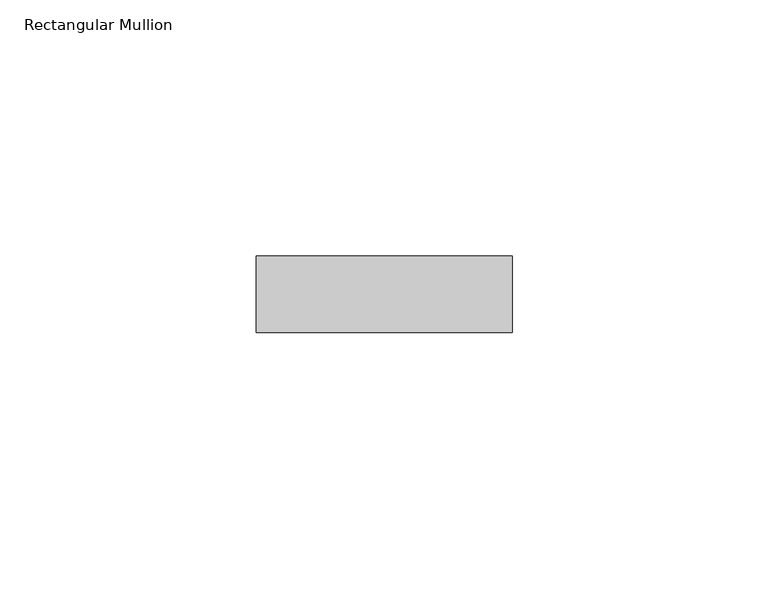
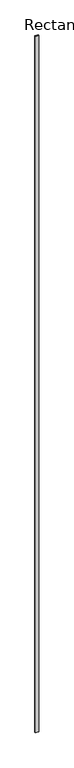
"""IFC4 building model written with IfcOpenShell, lengths in millimetres: member geometry, Rectangular Mullion : Ripa."""

import ifcopenshell
import ifcopenshell.guid

model = None  # the IFC model being written
_history = None  # IfcOwnerHistory: only IFC2X3 demands one
_inside = {}  # id of a spatial element -> (the spatial element, [elements in it])
_under = {}  # id of a project, library or spatial element -> (it, [spatial elements below it])
_declared = {}  # id of a project -> (the project, [libraries it declares])
_typed = {}  # id of a type object -> (the type object, [elements of that type])
_made_of = {}  # id of a material, layer set ... -> (it, [elements and type objects made of it])


def new_model(schema):
    """Start an empty IFC model of exactly this schema.

    Asked for "IFC4X3", IfcOpenShell would pick the latest addendum, in which some entities
    have other attributes; the version numbers below select the first issue.
    IFC2X3 requires an IfcOwnerHistory on every rooted entity: one is made here for all.
    """
    global model, _history
    if schema == "IFC4X3":
        model = ifcopenshell.file(schema_version=(4, 3, 0, 0))
    else:
        model = ifcopenshell.file(schema=schema)
    _inside.clear()
    _under.clear()
    _declared.clear()
    _typed.clear()
    _made_of.clear()
    _history = None
    if model.schema == "IFC2X3":
        org = make("IfcOrganization", Name="unknown")
        user = make(
            "IfcPersonAndOrganization",
            ThePerson=make("IfcPerson", FamilyName="unknown"),
            TheOrganization=org,
        )
        app = make(
            "IfcApplication",
            ApplicationDeveloper=org,
            Version="unknown",
            ApplicationFullName="unknown",
            ApplicationIdentifier="unknown",
        )
        _history = make(
            "IfcOwnerHistory",
            OwningUser=user,
            OwningApplication=app,
            ChangeAction="ADDED",
            CreationDate=0,
        )
    return model


def make(cls, **values):
    """One entity of the class cls with the attributes given. An attribute that is None is left unset."""
    return model.create_entity(
        cls, **{name: value for name, value in values.items() if value is not None}
    )


def rooted(cls, **values):
    """An entity with a GlobalId (a new one), such as an element, a storey or a relation."""
    return make(cls, GlobalId=ifcopenshell.guid.new(), OwnerHistory=_history, **values)


def si_unit(unit_type, name, prefix=None):
    """IfcSIUnit, for example si_unit("LENGTHUNIT", "METRE", prefix="MILLI")."""
    return make("IfcSIUnit", UnitType=unit_type, Prefix=prefix, Name=name)


def assignment(units):
    """IfcUnitAssignment: the units of a project."""
    return None if units is None else make("IfcUnitAssignment", Units=units)


def point(xyz):
    """IfcCartesianPoint."""
    return None if xyz is None else make("IfcCartesianPoint", Coordinates=xyz)


def direction(xyz):
    """IfcDirection."""
    return None if xyz is None else make("IfcDirection", DirectionRatios=xyz)


def frame(location, z_axis=None, x_axis=None):
    """IfcAxis2Placement3D, a coordinate frame: its origin and axes. An axis left out is left unset."""
    return make(
        "IfcAxis2Placement3D",
        Location=point(location),
        Axis=direction(z_axis),
        RefDirection=direction(x_axis),
    )


def origin():
    """The frame at (0, 0, 0) with its axes left unset."""
    return frame((0.0, 0.0, 0.0))


def place(relative_to, where):
    """IfcLocalPlacement: puts the frame where relative to a parent placement (None: the world)."""
    return make(
        "IfcLocalPlacement", PlacementRelTo=relative_to, RelativePlacement=where
    )


def context(
    kind, dimensions, precision=None, world=None, true_north=None, identifier=None
):
    """IfcGeometricRepresentationContext, for example the 3D "Model" context."""
    return make(
        "IfcGeometricRepresentationContext",
        ContextIdentifier=identifier,
        ContextType=kind,
        CoordinateSpaceDimension=dimensions,
        Precision=precision,
        WorldCoordinateSystem=world,
        TrueNorth=true_north,
    )


def project(units=None, contexts=None):
    """IfcProject with its units and contexts."""
    return rooted(
        "IfcProject",
        Name="project",
        RepresentationContexts=contexts,
        UnitsInContext=assignment(units),
    )


def spatial(cls, under=None, at=None, **own):
    """A site, building, storey or space (cls), placed at a placement, below another one or the project."""
    s = rooted(cls, ObjectPlacement=at, **own)
    if under is not None:
        _under.setdefault(under.id(), (under, []))[1].append(s)
    return s


def polyline(points):
    """IfcPolyline through the points."""
    return make("IfcPolyline", Points=[point(p) for p in points])


def outline(outer, holes=None, kind="AREA"):
    """IfcArbitraryClosedProfileDef: a profile drawn as a closed curve; with holes, ...WithVoids."""
    if holes is None:
        return make("IfcArbitraryClosedProfileDef", ProfileType=kind, OuterCurve=outer)
    return make(
        "IfcArbitraryProfileDefWithVoids",
        ProfileType=kind,
        OuterCurve=outer,
        InnerCurves=holes,
    )


def extrude(swept, where, along, depth):
    """IfcExtrudedAreaSolid: the profile swept, set in the frame where, extruded along a direction by depth."""
    return make(
        "IfcExtrudedAreaSolid",
        SweptArea=swept,
        Position=where,
        ExtrudedDirection=direction(along),
        Depth=depth,
    )


def shape(context_of_items, identifier, shape_type, items):
    """IfcShapeRepresentation: the items that make up one representation, for example the "Body"."""
    return make(
        "IfcShapeRepresentation",
        ContextOfItems=context_of_items,
        RepresentationIdentifier=identifier,
        RepresentationType=shape_type,
        Items=items,
    )


def source(mapping_origin, context_of_items, identifier, shape_type, items):
    """IfcRepresentationMap: a shape defined once, which mapped items show again and again."""
    return make(
        "IfcRepresentationMap",
        MappingOrigin=mapping_origin,
        MappedRepresentation=shape(context_of_items, identifier, shape_type, items),
    )


def transform(
    local_origin,
    x_axis=None,
    y_axis=None,
    z_axis=None,
    scale=None,
    scale2=None,
    scale3=None,
    uniform=True,
):
    """IfcCartesianTransformationOperator3D, or its non-uniform kind. x_axis, y_axis, z_axis: its Axis1, 2, 3."""
    if uniform:
        return make(
            "IfcCartesianTransformationOperator3D",
            Axis1=direction(x_axis),
            Axis2=direction(y_axis),
            LocalOrigin=point(local_origin),
            Scale=scale,
            Axis3=direction(z_axis),
        )
    return make(
        "IfcCartesianTransformationOperator3DnonUniform",
        Axis1=direction(x_axis),
        Axis2=direction(y_axis),
        LocalOrigin=point(local_origin),
        Scale=scale,
        Axis3=direction(z_axis),
        Scale2=scale2,
        Scale3=scale3,
    )


def mapped(mapping_source, mapping_target):
    """IfcMappedItem: shows the shape of a source again, moved by a transform."""
    return make(
        "IfcMappedItem", MappingSource=mapping_source, MappingTarget=mapping_target
    )


def made_of(thing, what):
    """Note that an element or type object is made of a material, layer set ...; save() writes the relation."""
    if what is not None:
        _made_of.setdefault(what.id(), (what, []))[1].append(thing)
    return thing


def element(
    cls,
    number,
    at=None,
    inside=None,
    cuts=None,
    type_object=None,
    material=None,
    context=None,
    identifier="Body",
    shape_type=None,
    held_by="IfcProductDefinitionShape",
    body=None,
    shapes=None,
    **own,
):
    """One element of the class cls, such as IfcWall. Its Tag is "e" and its number.

    at: its placement. inside: the storey or other place that contains it. cuts: it is an
    opening in that element (IfcRelVoidsElement). A single representation is given by context,
    identifier, shape_type and body (its items); several are given by shapes. held_by: the class
    of the entity that holds the representations. save() writes the other relations.
    """
    e = rooted(cls, Tag="e%d" % number, ObjectPlacement=at, **own)
    if body is not None:
        shapes = [shape(context, identifier, shape_type, body)]
    if shapes is not None:
        e.Representation = make(held_by, Representations=shapes)
    if inside is not None:
        _inside.setdefault(inside.id(), (inside, []))[1].append(e)
    if cuts is not None:
        rooted(
            "IfcRelVoidsElement", RelatingBuildingElement=cuts, RelatedOpeningElement=e
        )
    if type_object is not None:
        _typed.setdefault(type_object.id(), (type_object, []))[1].append(e)
    return made_of(e, material)


def aggregate(whole, parts):
    """IfcRelAggregates: a whole, such as a stair, and the parts it consists of."""
    return rooted("IfcRelAggregates", RelatingObject=whole, RelatedObjects=parts)


def save(model, path):
    """Write the relations noted so far, then the file.

    IfcRelAggregates (storeys below a building ...), IfcRelContainedInSpatialStructure (elements
    in a storey), IfcRelDefinesByType, IfcRelAssociatesMaterial and IfcRelDeclares: one each for
    every whole, place, type object, material and project.
    """
    for whole, parts in _under.values():
        aggregate(whole, parts)
    for where, things in _inside.values():
        rooted(
            "IfcRelContainedInSpatialStructure",
            RelatedElements=things,
            RelatingStructure=where,
        )
    for kind, things in _typed.values():
        rooted("IfcRelDefinesByType", RelatedObjects=things, RelatingType=kind)
    for what, things in _made_of.values():
        rooted("IfcRelAssociatesMaterial", RelatedObjects=things, RelatingMaterial=what)
    for by, libraries in _declared.values():
        rooted("IfcRelDeclares", RelatingContext=by, RelatedDefinitions=libraries)
    model.write(path)


def rectangular_mullion_a55b3314(model_context):
    return source(origin(), model_context, "Body", "SweptSolid", [
        extrude(outline(polyline([(0.0, -75.0), (-50.0, -75.0), (-50.0, -60.0), (0.0, -60.0), (0.0, -75.0)])), frame((0.0, 0.0, -11499.877058), z_axis=(0.0, 0.0, 1.0), x_axis=(1.0, 0.0, 0.0)), (0.0, 0.0, 1.0), 11499.877058),
    ])


if __name__ == "__main__":
    model = new_model("IFC4")
    model_context = context("Model", 3, world=origin())
    ifc_project = project(units=[si_unit("LENGTHUNIT", "METRE", prefix="MILLI")], contexts=[model_context])
    site = spatial("IfcSite", under=ifc_project)
    building = spatial("IfcBuilding", under=site)
    placement = place(None, origin())
    rectangular_mullion_shape = rectangular_mullion_a55b3314(model_context)
    element("IfcMember", 1, ObjectType="Rectangular Mullion : Ripa", at=placement, inside=building, context=model_context, shape_type="MappedRepresentation", body=[
        mapped(rectangular_mullion_shape, transform((0.0, 0.0, 0.0), x_axis=(1.0, 0.0, 0.0), y_axis=(0.0, 1.0, 0.0), z_axis=(0.0, 0.0, 1.0))),
    ])
    save(model, "model.ifc")
